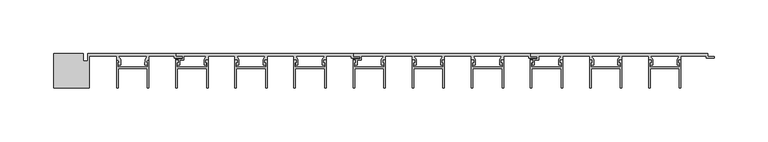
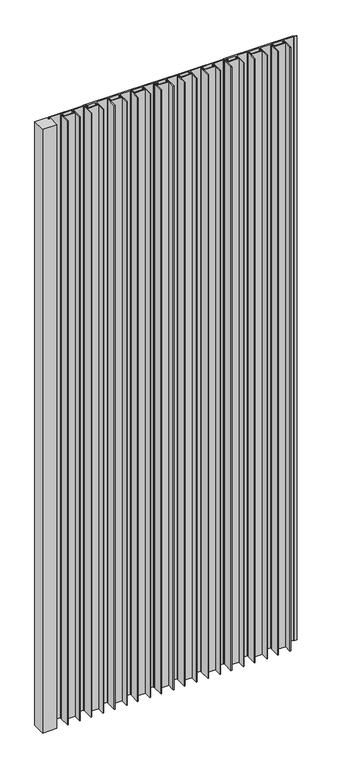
"""IFC4 building model written with IfcOpenShell, lengths in millimetres: proxy geometry, A_GEN_LINE_Main Base_Blade Cap_Corner Angle : A_GEN_LINE_Main Base_Blade Cap_Corner Angle."""

from ifc_helpers import new_model, si_unit, origin, origin_with_axes, place, context, project, spatial, polyline, outline, extrude, source, transform, mapped, element, save


def generic_models_521fa4f8(model_context):
    return source(origin(), model_context, "Body", "SweptSolid", [
        extrude(outline(polyline([(9.6853961, 0.0), (9.6853961, -7.0005407), (14.0816796, -7.0005407), (14.0816796, 0.0), (95.7918793, 0.0), (95.7918793, -2.825696), (101.7918793, -2.825696), (101.7918793, -4.175696), (94.2735242, -4.175696), (94.2735242, -2.4), (70.7697169, -2.4), (70.7697169, -6.1021884), (69.6547434, -6.1021884), (68.0661776, -8.4994005), (69.3281115, -8.4994005), (69.3281115, -10.4818695), (67.1255855, -10.4818695), (67.1588687, -5.5238337), (69.2289465, -2.4), (42.3147271, -2.4), (44.3848049, -5.5238337), (44.4180882, -10.4818695), (42.2155621, -10.4818695), (42.2155621, -8.4994005), (43.477496, -8.4994005), (41.8889302, -6.1021884), (40.7739568, -6.1021884), (40.7739568, -2.4), (15.4816796, -2.4), (15.4816796, -31.9534606), (-17.7610639, -31.9534606), (-17.7610639, 0.0), (9.6853961, 0.0)])), origin_with_axes(), (0.0, 0.0, 1.0), 1500.0),
        extrude(outline(polyline([(535.6931277, -32.0289818), (535.6931277, -6.1), (537.9178449, -6.1), (537.9178449, -8.3419727), (536.6114482, -8.7617834), (536.6114482, -12.5079436), (564.7748073, -12.5079436), (564.7748073, -8.7374539), (563.5441208, -8.3419727), (563.5441208, -6.1), (565.6931277, -6.1), (565.6931277, -32.0289818), (564.2931277, -32.0289818), (564.2931277, -13.9079436), (537.0931277, -13.9079436), (537.0931277, -32.0289818), (535.6931277, -32.0289818)])), origin_with_axes(), (0.0, 0.0, 1.0), 1500.0),
        extrude(outline(polyline([(480.7018732, -32.0289818), (480.7018732, -6.1), (482.9265903, -6.1), (482.9265903, -8.3419727), (481.6201936, -8.7617834), (481.6201936, -12.5079436), (509.7835527, -12.5079436), (509.7835527, -8.7374539), (508.5528662, -8.3419727), (508.5528662, -6.1), (510.7018732, -6.1), (510.7018732, -32.0289818), (509.3018732, -32.0289818), (509.3018732, -13.9079436), (482.1018732, -13.9079436), (482.1018732, -32.0289818), (480.7018732, -32.0289818)])), origin_with_axes(), (0.0, 0.0, 1.0), 1500.0),
        extrude(outline(polyline([(425.7106186, -32.0289818), (425.7106186, -6.1), (427.9353358, -6.1), (427.9353358, -8.3419727), (426.6289391, -8.7617834), (426.6289391, -12.5079436), (454.7922982, -12.5079436), (454.7922982, -8.7374539), (453.5616117, -8.3419727), (453.5616117, -6.1), (455.7106186, -6.1), (455.7106186, -32.0289818), (454.3106186, -32.0289818), (454.3106186, -13.9079436), (427.1106186, -13.9079436), (427.1106186, -32.0289818), (425.7106186, -32.0289818)])), origin_with_axes(), (0.0, 0.0, 1.0), 1500.0),
        extrude(outline(polyline([(370.7193641, -32.0289818), (370.7193641, -6.1), (372.9440812, -6.1), (372.9440812, -8.3419727), (371.6376845, -8.7617834), (371.6376845, -12.5079436), (399.8010436, -12.5079436), (399.8010436, -8.7374539), (398.5703571, -8.3419727), (398.5703571, -6.1), (400.7193641, -6.1), (400.7193641, -32.0289818), (399.3193641, -32.0289818), (399.3193641, -13.9079436), (372.1193641, -13.9079436), (372.1193641, -32.0289818), (370.7193641, -32.0289818)])), origin_with_axes(), (0.0, 0.0, 1.0), 1500.0),
        extrude(outline(polyline([(315.7281095, -32.0289818), (315.7281095, -6.1), (317.9528267, -6.1), (317.9528267, -8.3419727), (316.64643, -8.7617834), (316.64643, -12.5079436), (344.8097891, -12.5079436), (344.8097891, -8.7374539), (343.5791026, -8.3419727), (343.5791026, -6.1), (345.7281095, -6.1), (345.7281095, -32.0289818), (344.3281095, -32.0289818), (344.3281095, -13.9079436), (317.1281095, -13.9079436), (317.1281095, -32.0289818), (315.7281095, -32.0289818)])), origin_with_axes(), (0.0, 0.0, 1.0), 1500.0),
        extrude(outline(polyline([(260.736855, -32.0289818), (260.736855, -6.1), (262.9615722, -6.1), (262.9615722, -8.3419727), (261.6551754, -8.7617834), (261.6551754, -12.5079436), (289.8185346, -12.5079436), (289.8185346, -8.7374539), (288.587848, -8.3419727), (288.587848, -6.1), (290.736855, -6.1), (290.736855, -32.0289818), (289.336855, -32.0289818), (289.336855, -13.9079436), (262.136855, -13.9079436), (262.136855, -32.0289818), (260.736855, -32.0289818)])), origin_with_axes(), (0.0, 0.0, 1.0), 1500.0),
        extrude(outline(polyline([(205.7456004, -32.0289818), (205.7456004, -6.1), (207.9703176, -6.1), (207.9703176, -8.3419727), (206.6639209, -8.7617834), (206.6639209, -12.5079436), (234.82728, -12.5079436), (234.82728, -8.7374539), (233.5965935, -8.3419727), (233.5965935, -6.1), (235.7456004, -6.1), (235.7456004, -32.0289818), (234.3456004, -32.0289818), (234.3456004, -13.9079436), (207.1456004, -13.9079436), (207.1456004, -32.0289818), (205.7456004, -32.0289818)])), origin_with_axes(), (0.0, 0.0, 1.0), 1500.0),
        extrude(outline(polyline([(150.7543459, -32.0289818), (150.7543459, -6.1), (152.9790631, -6.1), (152.9790631, -8.3419727), (151.6726663, -8.7617834), (151.6726663, -12.5079436), (179.8360255, -12.5079436), (179.8360255, -8.7374539), (178.6053389, -8.3419727), (178.6053389, -6.1), (180.7543459, -6.1), (180.7543459, -32.0289818), (179.3543459, -32.0289818), (179.3543459, -13.9079436), (152.1543459, -13.9079436), (152.1543459, -32.0289818), (150.7543459, -32.0289818)])), origin_with_axes(), (0.0, 0.0, 1.0), 1500.0),
        extrude(outline(polyline([(95.7630914, -32.0289818), (95.7630914, -6.1), (97.9878085, -6.1), (97.9878085, -8.3419727), (96.6814118, -8.7617834), (96.6814118, -12.5079436), (124.8447709, -12.5079436), (124.8447709, -8.7374539), (123.6140844, -8.3419727), (123.6140844, -6.1), (125.7630914, -6.1), (125.7630914, -32.0289818), (124.3630914, -32.0289818), (124.3630914, -13.9079436), (97.1630914, -13.9079436), (97.1630914, -32.0289818), (95.7630914, -32.0289818)])), origin_with_axes(), (0.0, 0.0, 1.0), 1500.0),
        extrude(outline(polyline([(40.7718368, -32.0289818), (40.7718368, -6.1), (42.996554, -6.1), (42.996554, -8.3419727), (41.6901573, -8.7617834), (41.6901573, -12.5079436), (69.8535164, -12.5079436), (69.8535164, -8.7374539), (68.6228299, -8.3419727), (68.6228299, -6.1), (70.7718368, -6.1), (70.7718368, -32.0289818), (69.3718368, -32.0289818), (69.3718368, -13.9079436), (42.1718368, -13.9079436), (42.1718368, -32.0289818), (40.7718368, -32.0289818)])), origin_with_axes(), (0.0, 0.0, 1.0), 1500.0),
        extrude(outline(polyline([(426.1781195, 0.0), (590.7542283, 0.0), (590.7542283, -2.85), (596.7542283, -2.85), (596.7542283, -4.2), (589.2358732, -4.2), (589.2358732, -2.4), (565.7663057, -2.4), (565.7663057, -6.1021884), (564.6513323, -6.1021884), (563.0627665, -8.4994005), (564.3247004, -8.4994005), (564.3247004, -10.4818695), (562.1221743, -10.4818695), (562.1554576, -5.5238337), (564.2255354, -2.4), (537.3091004, -2.4), (539.4082215, -5.6343123), (539.4082215, -10.4818695), (537.2056955, -10.4818695), (537.2056955, -8.4994005), (538.4676294, -8.4994005), (536.8790636, -6.1021884), (535.7640901, -6.1021884), (535.7640901, -2.4), (510.7635908, -2.4), (510.7635908, -6.1021884), (509.6486173, -6.1021884), (508.0600515, -8.4994005), (509.3219854, -8.4994005), (509.3219854, -10.4818695), (507.1194594, -10.4818695), (507.1194594, -5.5740595), (509.2228204, -2.4), (482.308601, -2.4), (484.4077222, -5.6343123), (484.4077222, -10.4818695), (482.2051961, -10.4818695), (482.2051961, -8.4994005), (483.46713, -8.4994005), (481.8785642, -6.1021884), (480.7635908, -6.1021884), (480.7635908, -2.4), (455.7630914, -2.4), (455.7630914, -6.1021884), (454.6481179, -6.1021884), (453.0595521, -8.4994005), (454.321486, -8.4994005), (454.321486, -10.4818695), (452.11896, -10.4818695), (452.11896, -5.6343123), (454.2180811, -2.4), (433.3976722, -2.4), (433.3976722, -6.1), (429.4072228, -6.1), (429.4072228, -10.4818695), (427.2046967, -10.4818695), (427.2046967, -8.4994005), (428.4666306, -8.4994005), (426.8780648, -6.1021884), (425.7918793, -6.1021884), (425.7918793, -4.9), (432.1976722, -4.9), (432.1976722, -2.7), (426.1781195, -2.7), (426.1781195, 0.0)])), origin_with_axes(), (0.0, 0.0, 1.0), 1500.0),
        extrude(outline(polyline([(261.1781195, 0.0), (425.7542283, 0.0), (425.7542283, -2.85), (431.7542283, -2.85), (431.7542283, -4.2), (424.2358732, -4.2), (424.2358732, -2.4), (400.7663057, -2.4), (400.7663057, -6.1021884), (399.6513323, -6.1021884), (398.0627665, -8.4994005), (399.3247004, -8.4994005), (399.3247004, -10.4818695), (397.1221743, -10.4818695), (397.1554576, -5.5238337), (399.2255354, -2.4), (372.3091004, -2.4), (374.4082215, -5.6343123), (374.4082215, -10.4818695), (372.2056955, -10.4818695), (372.2056955, -8.4994005), (373.4676294, -8.4994005), (371.8790636, -6.1021884), (370.7640901, -6.1021884), (370.7640901, -2.4), (345.7635908, -2.4), (345.7635908, -6.1021884), (344.6486173, -6.1021884), (343.0600515, -8.4994005), (344.3219854, -8.4994005), (344.3219854, -10.4818695), (342.1194594, -10.4818695), (342.1194594, -5.5740595), (344.2228204, -2.4), (317.308601, -2.4), (319.4077222, -5.6343123), (319.4077222, -10.4818695), (317.2051961, -10.4818695), (317.2051961, -8.4994005), (318.46713, -8.4994005), (316.8785642, -6.1021884), (315.7635908, -6.1021884), (315.7635908, -2.4), (290.7630914, -2.4), (290.7630914, -6.1021884), (289.6481179, -6.1021884), (288.0595521, -8.4994005), (289.321486, -8.4994005), (289.321486, -10.4818695), (287.11896, -10.4818695), (287.11896, -5.6343123), (289.2180811, -2.4), (268.3976722, -2.4), (268.3976722, -6.1), (264.4072228, -6.1), (264.4072228, -10.4818695), (262.2046967, -10.4818695), (262.2046967, -8.4994005), (263.4666306, -8.4994005), (261.8780648, -6.1021884), (260.7918793, -6.1021884), (260.7918793, -4.9), (267.1976722, -4.9), (267.1976722, -2.7), (261.1781195, -2.7), (261.1781195, 0.0)])), origin_with_axes(), (0.0, 0.0, 1.0), 1500.0),
        extrude(outline(polyline([(96.1781195, 0.0), (260.7542283, 0.0), (260.7542283, -2.85), (266.7542283, -2.85), (266.7542283, -4.2), (259.2358732, -4.2), (259.2358732, -2.4), (235.7663057, -2.4), (235.7663057, -6.1021884), (234.6513323, -6.1021884), (233.0627665, -8.4994005), (234.3247004, -8.4994005), (234.3247004, -10.4818695), (232.1221743, -10.4818695), (232.1554576, -5.5238337), (234.2255354, -2.4), (207.3091004, -2.4), (209.4082215, -5.6343123), (209.4082215, -10.4818695), (207.2056955, -10.4818695), (207.2056955, -8.4994005), (208.4676294, -8.4994005), (206.8790636, -6.1021884), (205.7640901, -6.1021884), (205.7640901, -2.4), (180.7635908, -2.4), (180.7635908, -6.1021884), (179.6486173, -6.1021884), (178.0600515, -8.4994005), (179.3219854, -8.4994005), (179.3219854, -10.4818695), (177.1194594, -10.4818695), (177.1194594, -5.5740595), (179.2228204, -2.4), (152.308601, -2.4), (154.4077222, -5.6343123), (154.4077222, -10.4818695), (152.2051961, -10.4818695), (152.2051961, -8.4994005), (153.46713, -8.4994005), (151.8785642, -6.1021884), (150.7635908, -6.1021884), (150.7635908, -2.4), (125.7630914, -2.4), (125.7630914, -6.1021884), (124.6481179, -6.1021884), (123.0595521, -8.4994005), (124.321486, -8.4994005), (124.321486, -10.4818695), (122.11896, -10.4818695), (122.11896, -5.6343123), (124.2180811, -2.4), (103.3976722, -2.4), (103.3976722, -6.1), (99.4072228, -6.1), (99.4072228, -10.4818695), (97.2046967, -10.4818695), (97.2046967, -8.4994005), (98.4666306, -8.4994005), (96.8780648, -6.1021884), (95.7918793, -6.1021884), (95.7918793, -4.9), (102.1976722, -4.9), (102.1976722, -2.7), (96.1781195, -2.7), (96.1781195, 0.0)])), origin_with_axes(), (0.0, 0.0, 1.0), 1500.0),
    ])


if __name__ == "__main__":
    model = new_model("IFC4")
    model_context = context("Model", 3, world=origin())
    ifc_project = project(units=[si_unit("LENGTHUNIT", "METRE", prefix="MILLI")], contexts=[model_context])
    site = spatial("IfcSite", under=ifc_project)
    building = spatial("IfcBuilding", under=site)
    placement = place(None, origin())
    generic_models_shape = generic_models_521fa4f8(model_context)
    element("IfcBuildingElementProxy", 1, Name="A_GEN_LINE_Main Base_Blade Cap_Corner Angle : A_GEN_LINE_Main Base_Blade Cap_Corner Angle", ObjectType="A_GEN_LINE_Main Base_Blade Cap_Corner Angle : A_GEN_LINE_Main Base_Blade Cap_Corner Angle", at=placement, inside=building, context=model_context, shape_type="MappedRepresentation", body=[
        mapped(generic_models_shape, transform((0.0, 0.0, 0.0), x_axis=(1.0, 0.0, 0.0), y_axis=(0.0, 1.0, 0.0), z_axis=(0.0, 0.0, 1.0))),
    ])
    save(model, "model.ifc")
